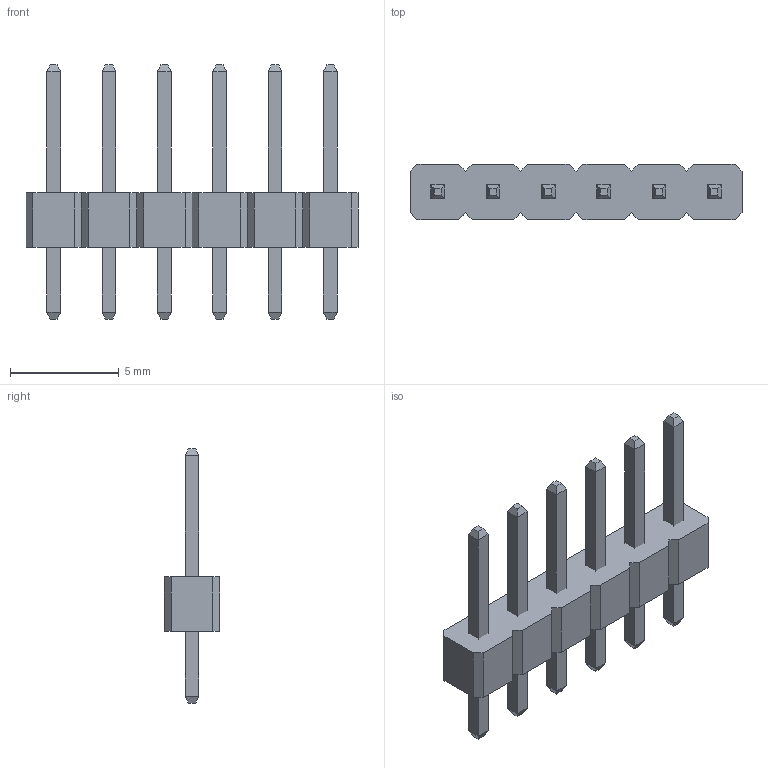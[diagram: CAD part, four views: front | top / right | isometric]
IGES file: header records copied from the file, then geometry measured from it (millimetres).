
Start section: Data from Parasolid IGES Translator 23.1.110, Copyright(c) 2006 Siemens PLM Software. All Rights Reserved.
Global section: file name: 5f3dd4ff933f190f816bc9dc.iges; native system: By Siemens PLM Incorporated; preprocessor: XPlus GENERIC/IGES 23.1.110; author: Noname; organization: Noname; date: 20200820.014223; units: metre
Bounding box: 15.24 x 2.54 x 11.68 mm (x, y, z)
Surface area: 352.6 mm2 (no closed solid volume)
Topology: 0 solids, 0 shells, 160 faces, 708 edges, 708 vertices
Faces by surface type: extrusion 160
